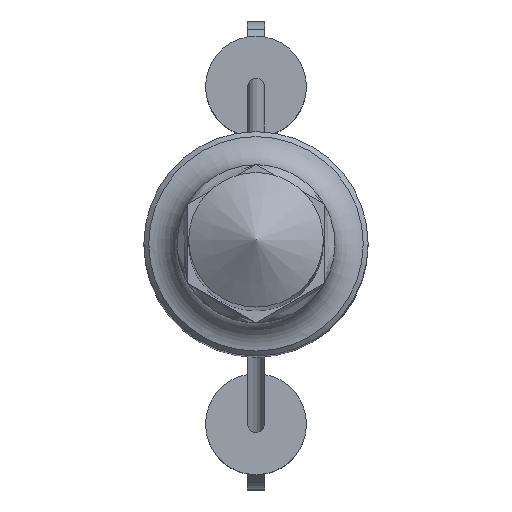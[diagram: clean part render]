
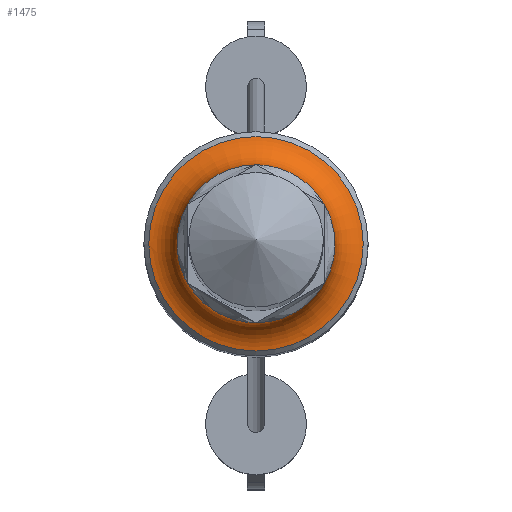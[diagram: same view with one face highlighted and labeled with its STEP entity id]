
A CAD part, top view. The second image highlights one B-rep face of the part: STEP entity #1475.
In plain terms, the highlighted toroidal (fillet/blend) face has major radius 5.02 mm and minor radius 1.5 mm.
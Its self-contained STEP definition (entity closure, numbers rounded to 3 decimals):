
#48 = VERTEX_POINT ( 'NONE', #85 ) ;
#78 = CARTESIAN_POINT ( 'NONE',  ( 3.477, 0.629, -3.5 ) ) ;
#85 = CARTESIAN_POINT ( 'NONE',  ( 0., 3.52, -3.5 ) ) ;
#91 = VERTEX_POINT ( 'NONE', #275 ) ;
#115 = AXIS2_PLACEMENT_3D ( 'NONE', #363, #1829, #383 ) ;
#121 = CARTESIAN_POINT ( 'NONE',  ( 3.52, 0.314, -3.5 ) ) ;
#170 = CARTESIAN_POINT ( 'NONE',  ( -2.032, 2.891, -3.5 ) ) ;
#182 = ORIENTED_EDGE ( 'NONE', *, *, #1150, .F. ) ;
#185 = FACE_OUTER_BOUND ( 'NONE', #974, .T. ) ;
#238 = CARTESIAN_POINT ( 'NONE',  ( -0.597, -3.483, -3.5 ) ) ;
#250 = CARTESIAN_POINT ( 'NONE',  ( 3.049, 1.76, -3.5 ) ) ;
#275 = CARTESIAN_POINT ( 'NONE',  ( 0., -3.52, -3.5 ) ) ;
#316 = CARTESIAN_POINT ( 'NONE',  ( 1.194, -3.326, -3.5 ) ) ;
#342 = CARTESIAN_POINT ( 'NONE',  ( 3.049, -1.76, -3.5 ) ) ;
#347 = VERTEX_POINT ( 'NONE', #1362 ) ;
#363 = CARTESIAN_POINT ( 'NONE',  ( 0., 0., -4.981 ) ) ;
#383 = DIRECTION ( 'NONE',  ( 1., 0., 0. ) ) ;
#418 = CARTESIAN_POINT ( 'NONE',  ( -3.477, -0.629, -3.5 ) ) ;
#423 = CARTESIAN_POINT ( 'NONE',  ( -1.488, -3.206, -3.5 ) ) ;
#441 = CARTESIAN_POINT ( 'NONE',  ( -3.195, 1.506, -3.5 ) ) ;
#444 = CARTESIAN_POINT ( 'NONE',  ( -3.049, -1.76, -3.5 ) ) ;
#511 = CARTESIAN_POINT ( 'NONE',  ( 2.283, 2.697, -3.5 ) ) ;
#528 = DIRECTION ( 'NONE',  ( 0., 0., 1. ) ) ;
#552 = CARTESIAN_POINT ( 'NONE',  ( 4.781, 0., -4.981 ) ) ;
#556 = VERTEX_POINT ( 'NONE', #1242 ) ;
#596 = CARTESIAN_POINT ( 'NONE',  ( -1.194, -3.326, -3.5 ) ) ;
#647 = CARTESIAN_POINT ( 'NONE',  ( 0., 3.52, -3.5 ) ) ;
#667 = CARTESIAN_POINT ( 'NONE',  ( -2.902, 2.014, -3.5 ) ) ;
#686 = CARTESIAN_POINT ( 'NONE',  ( 2.902, 2.014, -3.5 ) ) ;
#697 = ORIENTED_EDGE ( 'NONE', *, *, #1581, .F. ) ;
#715 = FACE_OUTER_BOUND ( 'NONE', #1810, .T. ) ;
#731 = CARTESIAN_POINT ( 'NONE',  ( -3.315, -1.225, -3.5 ) ) ;
#764 = B_SPLINE_CURVE_WITH_KNOTS ( 'NONE', 3,
 ( #1049, #931, #922, #1752, #1591, #121, #78, #1218, #1894, #1903 ),
 .UNSPECIFIED., .F., .F.,
 ( 4, 2, 2, 2, 4 ),
 ( 0., 0.25, 0.5, 0.75, 1. ),
 .UNSPECIFIED. ) ;
#781 = B_SPLINE_CURVE_WITH_KNOTS ( 'NONE', 3,
 ( #444, #1743, #1895, #1084, #1711, #423, #596, #238, #1096, #1071 ),
 .UNSPECIFIED., .F., .F.,
 ( 4, 2, 2, 2, 4 ),
 ( 0., 0.25, 0.5, 0.75, 1. ),
 .UNSPECIFIED. ) ;
#788 = CARTESIAN_POINT ( 'NONE',  ( 0., -3.52, -3.5 ) ) ;
#795 = CARTESIAN_POINT ( 'NONE',  ( -2.718, 2.258, -3.5 ) ) ;
#800 = CARTESIAN_POINT ( 'NONE',  ( 1.488, -3.206, -3.5 ) ) ;
#836 = VERTEX_POINT ( 'NONE', #250 ) ;
#861 = VERTEX_POINT ( 'NONE', #552 ) ;
#922 = CARTESIAN_POINT ( 'NONE',  ( 3.315, -1.225, -3.5 ) ) ;
#931 = CARTESIAN_POINT ( 'NONE',  ( 3.195, -1.506, -3.5 ) ) ;
#974 = EDGE_LOOP ( 'NONE', ( #1496, #1232, #1904, #697, #1337, #182 ) ) ;
#990 = CARTESIAN_POINT ( 'NONE',  ( 2.902, -2.014, -3.5 ) ) ;
#995 = CARTESIAN_POINT ( 'NONE',  ( 3.049, 1.76, -3.5 ) ) ;
#1012 = ORIENTED_EDGE ( 'NONE', *, *, #1252, .T. ) ;
#1049 = CARTESIAN_POINT ( 'NONE',  ( 3.049, -1.76, -3.5 ) ) ;
#1050 = EDGE_CURVE ( 'NONE', #347, #1611, #1876, .T. ) ;
#1071 = CARTESIAN_POINT ( 'NONE',  ( 0., -3.52, -3.5 ) ) ;
#1084 = CARTESIAN_POINT ( 'NONE',  ( -2.283, -2.697, -3.5 ) ) ;
#1096 = CARTESIAN_POINT ( 'NONE',  ( -0.293, -3.52, -3.5 ) ) ;
#1112 = TOROIDAL_SURFACE ( 'NONE', #1219, 5.02, 1.5 ) ;
#1150 = EDGE_CURVE ( 'NONE', #48, #347, #1491, .T. ) ;
#1151 = CARTESIAN_POINT ( 'NONE',  ( -3.049, 1.76, -3.5 ) ) ;
#1158 = CARTESIAN_POINT ( 'NONE',  ( 0.293, -3.52, -3.5 ) ) ;
#1218 = CARTESIAN_POINT ( 'NONE',  ( 3.315, 1.225, -3.5 ) ) ;
#1219 = AXIS2_PLACEMENT_3D ( 'NONE', #1501, #528, #1660 ) ;
#1232 = ORIENTED_EDGE ( 'NONE', *, *, #1910, .F. ) ;
#1242 = CARTESIAN_POINT ( 'NONE',  ( 3.049, -1.76, -3.5 ) ) ;
#1252 = EDGE_CURVE ( 'NONE', #861, #861, #1488, .T. ) ;
#1258 = CARTESIAN_POINT ( 'NONE',  ( -3.315, 1.225, -3.5 ) ) ;
#1289 = CARTESIAN_POINT ( 'NONE',  ( -0.293, 3.52, -3.5 ) ) ;
#1298 = CARTESIAN_POINT ( 'NONE',  ( -1.194, 3.326, -3.5 ) ) ;
#1334 = CARTESIAN_POINT ( 'NONE',  ( 2.032, 2.891, -3.5 ) ) ;
#1337 = ORIENTED_EDGE ( 'NONE', *, *, #1050, .F. ) ;
#1347 = CARTESIAN_POINT ( 'NONE',  ( 0.597, 3.483, -3.5 ) ) ;
#1362 = CARTESIAN_POINT ( 'NONE',  ( -3.049, 1.76, -3.5 ) ) ;
#1370 = EDGE_CURVE ( 'NONE', #836, #48, #1729, .T. ) ;
#1401 = EDGE_CURVE ( 'NONE', #91, #556, #1451, .T. ) ;
#1451 = B_SPLINE_CURVE_WITH_KNOTS ( 'NONE', 3,
 ( #788, #1158, #1795, #316, #800, #1955, #1816, #1489, #990, #342 ),
 .UNSPECIFIED., .F., .F.,
 ( 4, 2, 2, 2, 4 ),
 ( 0., 0.25, 0.5, 0.75, 1. ),
 .UNSPECIFIED. ) ;
#1471 = CARTESIAN_POINT ( 'NONE',  ( -2.283, 2.697, -3.5 ) ) ;
#1475 = ADVANCED_FACE ( 'NONE', ( #715, #185 ), #1112, .F. ) ;
#1488 = CIRCLE ( 'NONE', #115, 4.781 ) ;
#1489 = CARTESIAN_POINT ( 'NONE',  ( 2.718, -2.258, -3.5 ) ) ;
#1491 = B_SPLINE_CURVE_WITH_KNOTS ( 'NONE', 3,
 ( #647, #1289, #2098, #1298, #1613, #170, #1471, #795, #667, #1151 ),
 .UNSPECIFIED., .F., .F.,
 ( 4, 2, 2, 2, 4 ),
 ( 0., 0.25, 0.5, 0.75, 1. ),
 .UNSPECIFIED. ) ;
#1496 = ORIENTED_EDGE ( 'NONE', *, *, #1370, .F. ) ;
#1501 = CARTESIAN_POINT ( 'NONE',  ( 0., 0., -3.5 ) ) ;
#1525 = CARTESIAN_POINT ( 'NONE',  ( 1.488, 3.206, -3.5 ) ) ;
#1550 = CARTESIAN_POINT ( 'NONE',  ( -3.049, 1.76, -3.5 ) ) ;
#1578 = CARTESIAN_POINT ( 'NONE',  ( -3.52, 0.314, -3.5 ) ) ;
#1581 = EDGE_CURVE ( 'NONE', #1611, #91, #781, .T. ) ;
#1591 = CARTESIAN_POINT ( 'NONE',  ( 3.52, -0.314, -3.5 ) ) ;
#1611 = VERTEX_POINT ( 'NONE', #1767 ) ;
#1613 = CARTESIAN_POINT ( 'NONE',  ( -1.488, 3.206, -3.5 ) ) ;
#1660 = DIRECTION ( 'NONE',  ( 1., 0., 0. ) ) ;
#1711 = CARTESIAN_POINT ( 'NONE',  ( -2.032, -2.891, -3.5 ) ) ;
#1719 = CARTESIAN_POINT ( 'NONE',  ( -3.049, -1.76, -3.5 ) ) ;
#1728 = CARTESIAN_POINT ( 'NONE',  ( -3.195, -1.506, -3.5 ) ) ;
#1729 = B_SPLINE_CURVE_WITH_KNOTS ( 'NONE', 3,
 ( #995, #686, #1983, #511, #1334, #1525, #1860, #1347, #2004, #1991 ),
 .UNSPECIFIED., .F., .F.,
 ( 4, 2, 2, 2, 4 ),
 ( 0., 0.25, 0.5, 0.75, 1. ),
 .UNSPECIFIED. ) ;
#1743 = CARTESIAN_POINT ( 'NONE',  ( -2.902, -2.014, -3.5 ) ) ;
#1752 = CARTESIAN_POINT ( 'NONE',  ( 3.477, -0.629, -3.5 ) ) ;
#1767 = CARTESIAN_POINT ( 'NONE',  ( -3.049, -1.76, -3.5 ) ) ;
#1795 = CARTESIAN_POINT ( 'NONE',  ( 0.597, -3.483, -3.5 ) ) ;
#1810 = EDGE_LOOP ( 'NONE', ( #1012 ) ) ;
#1816 = CARTESIAN_POINT ( 'NONE',  ( 2.283, -2.697, -3.5 ) ) ;
#1829 = DIRECTION ( 'NONE',  ( 0., 0., 1. ) ) ;
#1860 = CARTESIAN_POINT ( 'NONE',  ( 1.194, 3.326, -3.5 ) ) ;
#1876 = B_SPLINE_CURVE_WITH_KNOTS ( 'NONE', 3,
 ( #1550, #441, #1258, #1883, #1578, #1892, #418, #731, #1728, #1719 ),
 .UNSPECIFIED., .F., .F.,
 ( 4, 2, 2, 2, 4 ),
 ( 0., 0.25, 0.5, 0.75, 1. ),
 .UNSPECIFIED. ) ;
#1883 = CARTESIAN_POINT ( 'NONE',  ( -3.477, 0.629, -3.5 ) ) ;
#1892 = CARTESIAN_POINT ( 'NONE',  ( -3.52, -0.314, -3.5 ) ) ;
#1894 = CARTESIAN_POINT ( 'NONE',  ( 3.195, 1.506, -3.5 ) ) ;
#1895 = CARTESIAN_POINT ( 'NONE',  ( -2.718, -2.258, -3.5 ) ) ;
#1903 = CARTESIAN_POINT ( 'NONE',  ( 3.049, 1.76, -3.5 ) ) ;
#1904 = ORIENTED_EDGE ( 'NONE', *, *, #1401, .F. ) ;
#1910 = EDGE_CURVE ( 'NONE', #556, #836, #764, .T. ) ;
#1955 = CARTESIAN_POINT ( 'NONE',  ( 2.032, -2.891, -3.5 ) ) ;
#1983 = CARTESIAN_POINT ( 'NONE',  ( 2.718, 2.258, -3.5 ) ) ;
#1991 = CARTESIAN_POINT ( 'NONE',  ( 0., 3.52, -3.5 ) ) ;
#2004 = CARTESIAN_POINT ( 'NONE',  ( 0.293, 3.52, -3.5 ) ) ;
#2098 = CARTESIAN_POINT ( 'NONE',  ( -0.597, 3.483, -3.5 ) ) ;
